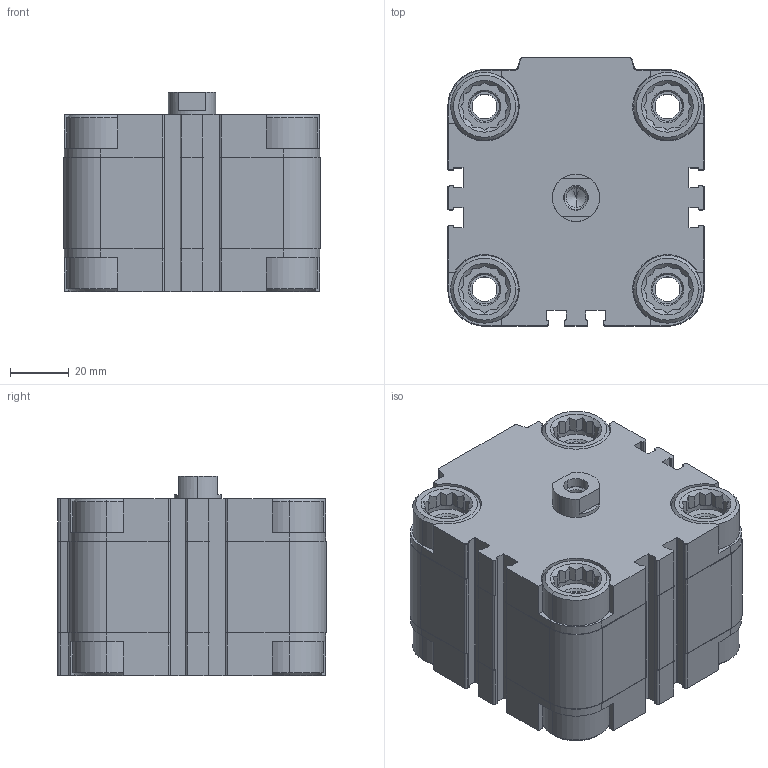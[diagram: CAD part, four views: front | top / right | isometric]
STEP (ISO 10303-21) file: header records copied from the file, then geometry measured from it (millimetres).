
FILE_DESCRIPTION (( 'STEP AP203' ), '1' );
FILE_NAME ('CDVU63-10F.STEP', '2020-03-30T15:01:05', ( '' ), ( '' ), 'SwSTEP 2.0', 'SolidWorks 2019', '' );
FILE_SCHEMA (( 'CONFIG_CONTROL_DESIGN' ));
Length unit declared in the file: millimetre
Products named in the file (1): CDVU63-10F
Bounding box: 87 x 91 x 67.5 mm (x, y, z)
Volume: 377941.7 mm3; surface area: 77898.6 mm2
Topology: 2 solids, 2 shells, 609 faces, 1634 edges, 1071 vertices
Faces by surface type: plane 365, cylinder 182, cone 62
Entity records: 19241 total; most frequent: CARTESIAN_POINT 3885, ORIENTED_EDGE 3256, DIRECTION 3096, EDGE_CURVE 1628, VERTEX_POINT 1071, AXIS2_PLACEMENT_3D 1050, LINE 996, VECTOR 996
